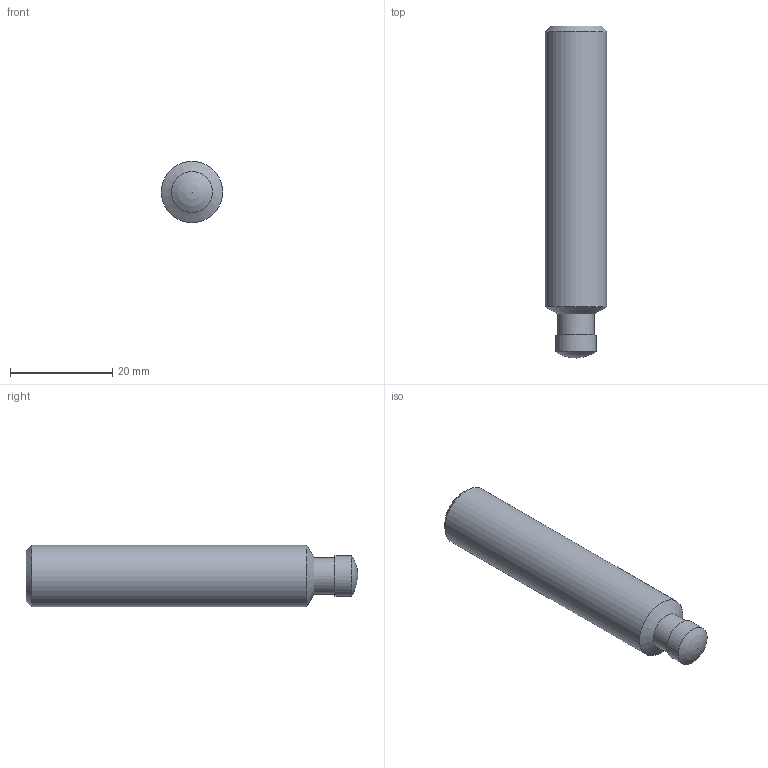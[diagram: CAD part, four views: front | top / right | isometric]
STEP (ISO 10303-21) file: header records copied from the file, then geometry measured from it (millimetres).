
FILE_DESCRIPTION( ( 'STEP AP203' ), '1' );
FILE_NAME( 'C:/Temp/Ganter_Step_05_03_2020/data/3_2/din6332/din6332/Grub screw DIN 6332-M12-65-SKN.stp', '2020-03-13T05:16:31', ( 'License CC BY-ND 4.0' ), ( 'CADENAS' ), ' ', 'PARTsolutions', ' ' );
FILE_SCHEMA( ( 'CONFIG_CONTROL_DESIGN' ) );
Length unit declared in the file: millimetre
Products named in the file (1): _Grub screw DIN 6332-M12-65-SKN
Bounding box: 12 x 65 x 12 mm (x, y, z)
Volume: 6539.5 mm3; surface area: 2566.5 mm2
Topology: 1 solids, 1 shells, 15 faces, 33 edges, 21 vertices
Faces by surface type: plane 9, cylinder 3, cone 2, sphere 1
Full cylindrical faces by diameter (mm): 7.2 x1, 8 x1, 12 x1
Entity records: 410 total; most frequent: DIRECTION 64, CARTESIAN_POINT 61, ORIENTED_EDGE 50, EDGE_CURVE 25, AXIS2_PLACEMENT_3D 23, EDGE_LOOP 22, VERTEX_POINT 20, FACE_OUTER_BOUND 18
